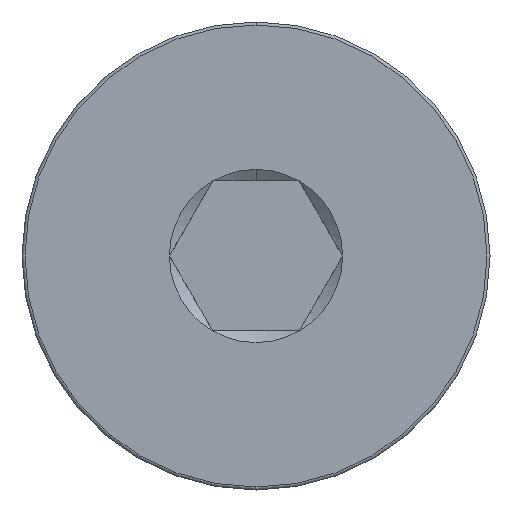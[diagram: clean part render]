
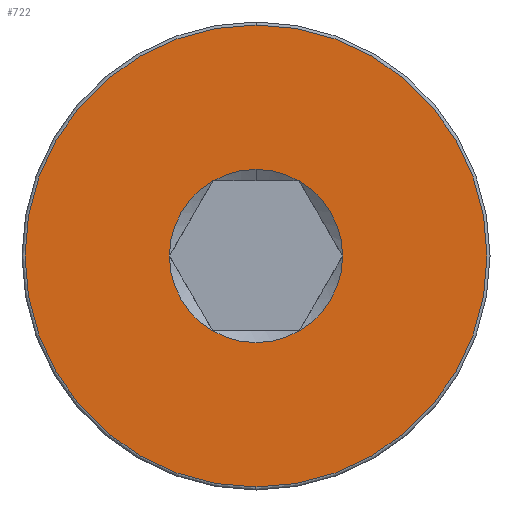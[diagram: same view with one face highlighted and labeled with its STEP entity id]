
A CAD part, left-side view. The second image highlights one B-rep face of the part: STEP entity #722.
In plain terms, the highlighted planar face has unit normal (-1, 0, 0).
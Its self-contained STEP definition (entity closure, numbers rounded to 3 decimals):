
#3 = DIRECTION ( 'NONE',  ( 1., 0., 0. ) ) ;
#7 = VERTEX_POINT ( 'NONE', #131 ) ;
#24 = DIRECTION ( 'NONE',  ( 0., 0., -1. ) ) ;
#27 = ORIENTED_EDGE ( 'NONE', *, *, #580, .T. ) ;
#40 = DIRECTION ( 'NONE',  ( -1., 0., 0. ) ) ;
#42 = ORIENTED_EDGE ( 'NONE', *, *, #426, .T. ) ;
#47 = EDGE_CURVE ( 'NONE', #525, #239, #264, .T. ) ;
#84 = CARTESIAN_POINT ( 'NONE',  ( 0., 0., -3.85 ) ) ;
#97 = CIRCLE ( 'NONE', #406, 1.443 ) ;
#98 = CIRCLE ( 'NONE', #357, 1.443 ) ;
#110 = EDGE_CURVE ( 'NONE', #572, #118, #576, .T. ) ;
#115 = EDGE_LOOP ( 'NONE', ( #173, #27, #182, #467, #336, #42, #417 ) ) ;
#118 = VERTEX_POINT ( 'NONE', #650 ) ;
#120 = DIRECTION ( 'NONE',  ( 1., 0., 0. ) ) ;
#131 = CARTESIAN_POINT ( 'NONE',  ( 0., -0.722, 1.25 ) ) ;
#139 = AXIS2_PLACEMENT_3D ( 'NONE', #692, #203, #311 ) ;
#146 = DIRECTION ( 'NONE',  ( 1., 0., 0. ) ) ;
#151 = AXIS2_PLACEMENT_3D ( 'NONE', #421, #120, #447 ) ;
#164 = CIRCLE ( 'NONE', #151, 1.443 ) ;
#166 = VERTEX_POINT ( 'NONE', #281 ) ;
#173 = ORIENTED_EDGE ( 'NONE', *, *, #110, .T. ) ;
#182 = ORIENTED_EDGE ( 'NONE', *, *, #628, .T. ) ;
#203 = DIRECTION ( 'NONE',  ( -1., 0., 0. ) ) ;
#206 = AXIS2_PLACEMENT_3D ( 'NONE', #414, #660, #663 ) ;
#222 = CARTESIAN_POINT ( 'NONE',  ( 0., 0., 0. ) ) ;
#237 = PLANE ( 'NONE',  #515 ) ;
#239 = VERTEX_POINT ( 'NONE', #84 ) ;
#250 = CARTESIAN_POINT ( 'NONE',  ( 0., 0., 3.85 ) ) ;
#256 = EDGE_CURVE ( 'NONE', #531, #350, #97, .T. ) ;
#264 = CIRCLE ( 'NONE', #139, 3.85 ) ;
#271 = DIRECTION ( 'NONE',  ( 0., 0., -1. ) ) ;
#280 = AXIS2_PLACEMENT_3D ( 'NONE', #766, #529, #24 ) ;
#281 = CARTESIAN_POINT ( 'NONE',  ( 0., 0.722, -1.25 ) ) ;
#296 = DIRECTION ( 'NONE',  ( 0., 0., 1. ) ) ;
#311 = DIRECTION ( 'NONE',  ( 0., 0., 1. ) ) ;
#322 = CARTESIAN_POINT ( 'NONE',  ( 0., 0., 0. ) ) ;
#336 = ORIENTED_EDGE ( 'NONE', *, *, #256, .T. ) ;
#339 = DIRECTION ( 'NONE',  ( 1., 0., 0. ) ) ;
#344 = FACE_BOUND ( 'NONE', #115, .T. ) ;
#350 = VERTEX_POINT ( 'NONE', #672 ) ;
#356 = CARTESIAN_POINT ( 'NONE',  ( 0., 0., 0. ) ) ;
#357 = AXIS2_PLACEMENT_3D ( 'NONE', #322, #146, #635 ) ;
#379 = CARTESIAN_POINT ( 'NONE',  ( 0., 0., 0. ) ) ;
#381 = AXIS2_PLACEMENT_3D ( 'NONE', #379, #551, #499 ) ;
#385 = CARTESIAN_POINT ( 'NONE',  ( 0., 1.443, 0. ) ) ;
#391 = AXIS2_PLACEMENT_3D ( 'NONE', #680, #3, #271 ) ;
#396 = EDGE_CURVE ( 'NONE', #239, #525, #514, .T. ) ;
#397 = EDGE_LOOP ( 'NONE', ( #733, #415 ) ) ;
#406 = AXIS2_PLACEMENT_3D ( 'NONE', #356, #669, #731 ) ;
#414 = CARTESIAN_POINT ( 'NONE',  ( 0., 0., 0. ) ) ;
#415 = ORIENTED_EDGE ( 'NONE', *, *, #396, .T. ) ;
#417 = ORIENTED_EDGE ( 'NONE', *, *, #488, .T. ) ;
#421 = CARTESIAN_POINT ( 'NONE',  ( 0., 0., 0. ) ) ;
#426 = EDGE_CURVE ( 'NONE', #350, #166, #164, .T. ) ;
#447 = DIRECTION ( 'NONE',  ( 0., 0., -1. ) ) ;
#452 = CIRCLE ( 'NONE', #751, 1.443 ) ;
#458 = VERTEX_POINT ( 'NONE', #747 ) ;
#467 = ORIENTED_EDGE ( 'NONE', *, *, #602, .T. ) ;
#477 = CIRCLE ( 'NONE', #381, 1.443 ) ;
#484 = CARTESIAN_POINT ( 'NONE',  ( 0., 0., 0. ) ) ;
#488 = EDGE_CURVE ( 'NONE', #166, #572, #477, .T. ) ;
#499 = DIRECTION ( 'NONE',  ( 0., 0., -1. ) ) ;
#514 = CIRCLE ( 'NONE', #206, 3.85 ) ;
#515 = AXIS2_PLACEMENT_3D ( 'NONE', #484, #40, #296 ) ;
#525 = VERTEX_POINT ( 'NONE', #250 ) ;
#529 = DIRECTION ( 'NONE',  ( 1., 0., 0. ) ) ;
#531 = VERTEX_POINT ( 'NONE', #738 ) ;
#537 = CIRCLE ( 'NONE', #280, 1.443 ) ;
#546 = FACE_OUTER_BOUND ( 'NONE', #397, .T. ) ;
#551 = DIRECTION ( 'NONE',  ( 1., 0., 0. ) ) ;
#572 = VERTEX_POINT ( 'NONE', #385 ) ;
#576 = CIRCLE ( 'NONE', #391, 1.443 ) ;
#580 = EDGE_CURVE ( 'NONE', #118, #458, #537, .T. ) ;
#602 = EDGE_CURVE ( 'NONE', #7, #531, #98, .T. ) ;
#628 = EDGE_CURVE ( 'NONE', #458, #7, #452, .T. ) ;
#635 = DIRECTION ( 'NONE',  ( 0., 0., -1. ) ) ;
#650 = CARTESIAN_POINT ( 'NONE',  ( 0., 0.722, 1.25 ) ) ;
#660 = DIRECTION ( 'NONE',  ( -1., 0., 0. ) ) ;
#663 = DIRECTION ( 'NONE',  ( 0., 0., 1. ) ) ;
#669 = DIRECTION ( 'NONE',  ( 1., 0., 0. ) ) ;
#672 = CARTESIAN_POINT ( 'NONE',  ( 0., -0.722, -1.25 ) ) ;
#680 = CARTESIAN_POINT ( 'NONE',  ( 0., 0., 0. ) ) ;
#692 = CARTESIAN_POINT ( 'NONE',  ( 0., 0., 0. ) ) ;
#706 = DIRECTION ( 'NONE',  ( 0., 0., -1. ) ) ;
#722 = ADVANCED_FACE ( 'NONE', ( #546, #344 ), #237, .T. ) ;
#731 = DIRECTION ( 'NONE',  ( 0., 0., -1. ) ) ;
#733 = ORIENTED_EDGE ( 'NONE', *, *, #47, .T. ) ;
#738 = CARTESIAN_POINT ( 'NONE',  ( 0., -1.443, 0. ) ) ;
#747 = CARTESIAN_POINT ( 'NONE',  ( 0., 0., 1.443 ) ) ;
#751 = AXIS2_PLACEMENT_3D ( 'NONE', #222, #339, #706 ) ;
#766 = CARTESIAN_POINT ( 'NONE',  ( 0., 0., 0. ) ) ;
